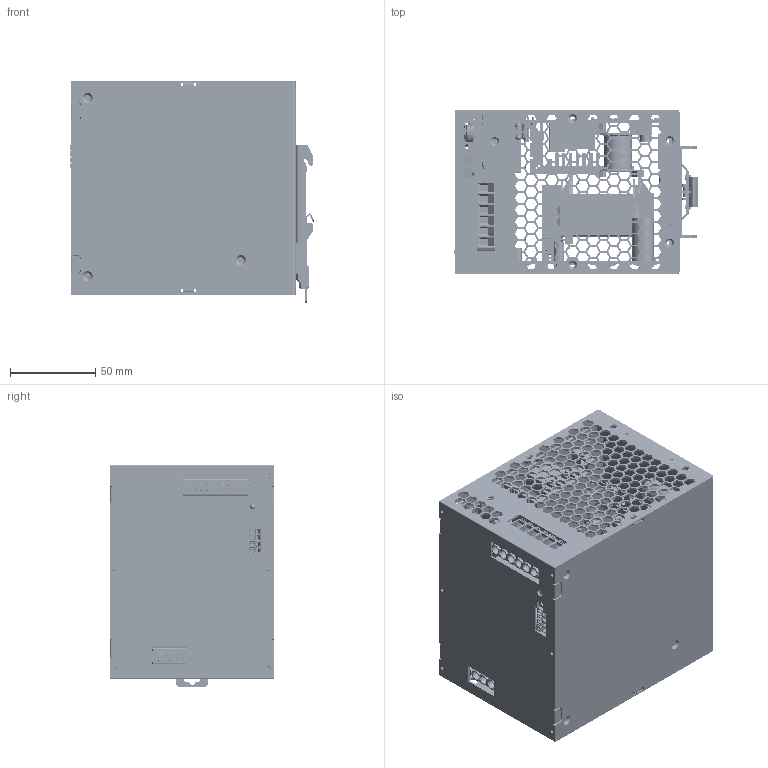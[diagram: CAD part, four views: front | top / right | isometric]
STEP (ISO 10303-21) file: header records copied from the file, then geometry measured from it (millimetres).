
FILE_DESCRIPTION(('Creo Elements/Direct Modeling STEP Export'),'2;1');
FILE_NAME('XDR-960E.stp','2025-03-31T13:53:47',(''),(''),'Creo Elements/Direct Modeling STEP processor for AP214 (Solid Model)','Creo Elements/Direct Modeling 19.0G 27-Nov-2017 (C) Parametric Technology GmbH','');
FILE_SCHEMA(('AUTOMOTIVE_DESIGN { 1 0 10303 214 1 1 1 1 }'));
Length unit declared in the file: millimetre
Products named in the file (842): 零件1.4; 零件1.3; 零件1.2; 零件1.1; 零件1; BOARD.PRT; TB.ASM; DG637-6_35-03P-1Y-00AH.prt.1; DG637-6_35-03P-1Y-00AH.prt.2; DG637-6_35-03P-1Y-00AH.prt; TB1-46190.ASM; 1GG4CU-SZ039.PRT; SZ039.ASM; JF1.ASM; TVR10471KFC3FW.PRT; ZNR1.ASM; EXTRUDED-182411.PRT; 930298656.ASM; EXTRUDED-182783.PRT; 930298816.ASM; EXTRUDED-183155.PRT; 930298976.ASM; EXTRUDED-183527.PRT; 930299616.ASM; EXTRUDED-184211.PRT; 930299296.ASM; EXTRUDED-184583.PRT; 930299456.ASM; EXTRUDED-184955.PRT; 930299136.ASM; R104.ASM; R103.ASM; R102.ASM; R101.ASM; R2512_1.PRT; R2512_2.PRT; R2512_3.PRT; R2512_4.PRT; R2512.ASM; J103.ASM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
Assembly tree (1247 placements, depth 9):
  零件1.4
  零件1.3
  零件1.2
  零件1.1
  零件1
Bounding box: 143.61 x 96 x 130.2 mm (x, y, z)
Volume: 481959.4 mm3; surface area: 551016.7 mm2
Topology: 1110 solids, 1158 shells, 36229 faces, 95935 edges, 62795 vertices
Faces by surface type: plane 23395, extrusion 7128, cylinder 4394, sphere 735, torus 278, cone 190, bspline 104, revolution 5
Entity records: 667504 total; most frequent: CARTESIAN_POINT 151664, ORIENTED_EDGE 92356, DIRECTION 81192, EDGE_CURVE 46230, VECTOR 38359, LINE 37206, VERTEX_POINT 30509, AXIS2_PLACEMENT_3D 21414
